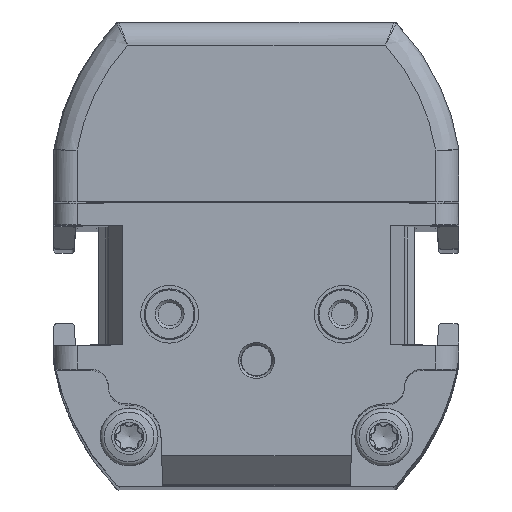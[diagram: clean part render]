
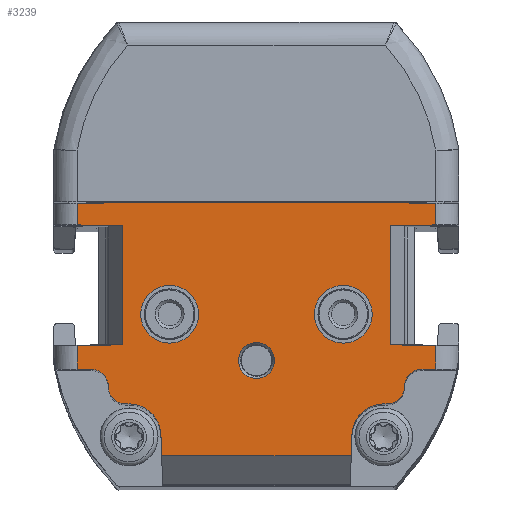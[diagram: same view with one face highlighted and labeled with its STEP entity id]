
A CAD part, top view. The second image highlights one B-rep face of the part: STEP entity #3239.
In plain terms, the highlighted planar face has unit normal (0, 0, 1).
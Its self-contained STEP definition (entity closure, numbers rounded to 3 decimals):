
#1178=FACE_BOUND('',#5343,.T.);
#1179=FACE_BOUND('',#5344,.T.);
#1180=FACE_BOUND('',#5345,.T.);
#1181=FACE_BOUND('',#5346,.T.);
#1900=CIRCLE('',#17502,2.5);
#1901=CIRCLE('',#17504,2.5);
#1902=CIRCLE('',#17506,1.55);
#1905=CIRCLE('',#17576,1.5);
#1906=CIRCLE('',#17577,1.5);
#1907=CIRCLE('',#17578,1.5);
#1908=CIRCLE('',#17579,1.5);
#1909=CIRCLE('',#17580,2.75);
#1910=CIRCLE('',#17581,2.75);
#3239=ADVANCED_FACE('',(#1178,#1179,#1180,#1181),#3754,.T.);
#3754=PLANE('',#17582);
#5343=EDGE_LOOP('',(#9281));
#5344=EDGE_LOOP('',(#9282));
#5345=EDGE_LOOP('',(#9283));
#5346=EDGE_LOOP('',(#9284,#9285,#9286,#9287,#9288,#9289,#9290,#9291,#9292,
#9293,#9294,#9295,#9296,#9297,#9298,#9299,#9300,#9301,#9302,#9303,#9304,
#9305,#9306,#9307,#9308,#9309));
#9281=ORIENTED_EDGE('',*,*,#13579,.T.);
#9282=ORIENTED_EDGE('',*,*,#13578,.F.);
#9283=ORIENTED_EDGE('',*,*,#13577,.F.);
#9284=ORIENTED_EDGE('',*,*,#13699,.F.);
#9285=ORIENTED_EDGE('',*,*,#13700,.T.);
#9286=ORIENTED_EDGE('',*,*,#13701,.T.);
#9287=ORIENTED_EDGE('',*,*,#13702,.T.);
#9288=ORIENTED_EDGE('',*,*,#13630,.T.);
#9289=ORIENTED_EDGE('',*,*,#13576,.T.);
#9290=ORIENTED_EDGE('',*,*,#13573,.T.);
#9291=ORIENTED_EDGE('',*,*,#13572,.T.);
#9292=ORIENTED_EDGE('',*,*,#13698,.T.);
#9293=ORIENTED_EDGE('',*,*,#13703,.F.);
#9294=ORIENTED_EDGE('',*,*,#13704,.F.);
#9295=ORIENTED_EDGE('',*,*,#13705,.F.);
#9296=ORIENTED_EDGE('',*,*,#13692,.T.);
#9297=ORIENTED_EDGE('',*,*,#13568,.F.);
#9298=ORIENTED_EDGE('',*,*,#13564,.T.);
#9299=ORIENTED_EDGE('',*,*,#13563,.F.);
#9300=ORIENTED_EDGE('',*,*,#13603,.T.);
#9301=ORIENTED_EDGE('',*,*,#13706,.F.);
#9302=ORIENTED_EDGE('',*,*,#13707,.T.);
#9303=ORIENTED_EDGE('',*,*,#13708,.T.);
#9304=ORIENTED_EDGE('',*,*,#13709,.F.);
#9305=ORIENTED_EDGE('',*,*,#13710,.F.);
#9306=ORIENTED_EDGE('',*,*,#13711,.F.);
#9307=ORIENTED_EDGE('',*,*,#13611,.T.);
#9308=ORIENTED_EDGE('',*,*,#13712,.F.);
#9309=ORIENTED_EDGE('',*,*,#13713,.F.);
#11499=VERTEX_POINT('',#29891);
#11500=VERTEX_POINT('',#29893);
#11501=VERTEX_POINT('',#29897);
#11502=VERTEX_POINT('',#29901);
#11504=VERTEX_POINT('',#29907);
#11506=VERTEX_POINT('',#29911);
#11507=VERTEX_POINT('',#29915);
#11508=VERTEX_POINT('',#29919);
#11509=VERTEX_POINT('',#29923);
#11510=VERTEX_POINT('',#29926);
#11511=VERTEX_POINT('',#29929);
#11528=VERTEX_POINT('',#30023);
#11533=VERTEX_POINT('',#30037);
#11534=VERTEX_POINT('',#30039);
#11547=VERTEX_POINT('',#30079);
#11581=VERTEX_POINT('',#30332);
#11585=VERTEX_POINT('',#30342);
#11586=VERTEX_POINT('',#30346);
#11587=VERTEX_POINT('',#30347);
#11588=VERTEX_POINT('',#30349);
#11589=VERTEX_POINT('',#30351);
#11590=VERTEX_POINT('',#30354);
#11591=VERTEX_POINT('',#30356);
#11592=VERTEX_POINT('',#30359);
#11593=VERTEX_POINT('',#30361);
#11594=VERTEX_POINT('',#30363);
#11595=VERTEX_POINT('',#30365);
#11596=VERTEX_POINT('',#30367);
#11597=VERTEX_POINT('',#30370);
#13563=EDGE_CURVE('',#11500,#11499,#15088,.T.);
#13564=EDGE_CURVE('',#11501,#11499,#15089,.T.);
#13568=EDGE_CURVE('',#11501,#11502,#15092,.T.);
#13572=EDGE_CURVE('',#11504,#11506,#15095,.T.);
#13573=EDGE_CURVE('',#11507,#11504,#15096,.T.);
#13576=EDGE_CURVE('',#11508,#11507,#15098,.T.);
#13577=EDGE_CURVE('',#11509,#11509,#1900,.T.);
#13578=EDGE_CURVE('',#11510,#11510,#1901,.T.);
#13579=EDGE_CURVE('',#11511,#11511,#1902,.T.);
#13603=EDGE_CURVE('',#11500,#11528,#15113,.T.);
#13611=EDGE_CURVE('',#11533,#11534,#15119,.T.);
#13630=EDGE_CURVE('',#11547,#11508,#15132,.T.);
#13692=EDGE_CURVE('',#11581,#11502,#15175,.T.);
#13698=EDGE_CURVE('',#11506,#11585,#15177,.T.);
#13699=EDGE_CURVE('',#11586,#11587,#15178,.T.);
#13700=EDGE_CURVE('',#11586,#11588,#1905,.T.);
#13701=EDGE_CURVE('',#11588,#11589,#1906,.T.);
#13702=EDGE_CURVE('',#11589,#11547,#15179,.T.);
#13703=EDGE_CURVE('',#11590,#11585,#15180,.T.);
#13704=EDGE_CURVE('',#11591,#11590,#15181,.T.);
#13705=EDGE_CURVE('',#11581,#11591,#15182,.T.);
#13706=EDGE_CURVE('',#11592,#11528,#15183,.T.);
#13707=EDGE_CURVE('',#11592,#11593,#1907,.T.);
#13708=EDGE_CURVE('',#11593,#11594,#1908,.T.);
#13709=EDGE_CURVE('',#11595,#11594,#15184,.T.);
#13710=EDGE_CURVE('',#11596,#11595,#1909,.T.);
#13711=EDGE_CURVE('',#11533,#11596,#15185,.T.);
#13712=EDGE_CURVE('',#11597,#11534,#15186,.T.);
#13713=EDGE_CURVE('',#11587,#11597,#1910,.T.);
#15088=LINE('',#29894,#16251);
#15089=LINE('',#29896,#16252);
#15092=LINE('',#29904,#16255);
#15095=LINE('',#29912,#16258);
#15096=LINE('',#29914,#16259);
#15098=LINE('',#29920,#16261);
#15113=LINE('',#30024,#16276);
#15119=LINE('',#30040,#16282);
#15132=LINE('',#30078,#16295);
#15175=LINE('',#30331,#16338);
#15177=LINE('',#30343,#16340);
#15178=LINE('',#30345,#16341);
#15179=LINE('',#30352,#16342);
#15180=LINE('',#30353,#16343);
#15181=LINE('',#30355,#16344);
#15182=LINE('',#30357,#16345);
#15183=LINE('',#30358,#16346);
#15184=LINE('',#30364,#16347);
#15185=LINE('',#30368,#16348);
#15186=LINE('',#30369,#16349);
#16251=VECTOR('',#20699,1.);
#16252=VECTOR('',#20702,1.);
#16255=VECTOR('',#20709,1.);
#16258=VECTOR('',#20716,1.);
#16259=VECTOR('',#20719,1.);
#16261=VECTOR('',#20725,1.);
#16276=VECTOR('',#20776,1.);
#16282=VECTOR('',#20790,1.);
#16295=VECTOR('',#20829,1.);
#16338=VECTOR('',#20940,1.);
#16340=VECTOR('',#20952,1.);
#16341=VECTOR('',#20955,1.);
#16342=VECTOR('',#20960,1.);
#16343=VECTOR('',#20961,1.);
#16344=VECTOR('',#20962,1.);
#16345=VECTOR('',#20963,1.);
#16346=VECTOR('',#20964,1.);
#16347=VECTOR('',#20969,1.);
#16348=VECTOR('',#20972,1.);
#16349=VECTOR('',#20973,1.);
#17502=AXIS2_PLACEMENT_3D('',#29922,#20728,#20729);
#17504=AXIS2_PLACEMENT_3D('',#29925,#20732,#20733);
#17506=AXIS2_PLACEMENT_3D('',#29928,#20736,#20737);
#17576=AXIS2_PLACEMENT_3D('',#30348,#20956,#20957);
#17577=AXIS2_PLACEMENT_3D('',#30350,#20958,#20959);
#17578=AXIS2_PLACEMENT_3D('',#30360,#20965,#20966);
#17579=AXIS2_PLACEMENT_3D('',#30362,#20967,#20968);
#17580=AXIS2_PLACEMENT_3D('',#30366,#20970,#20971);
#17581=AXIS2_PLACEMENT_3D('',#30371,#20974,#20975);
#17582=AXIS2_PLACEMENT_3D('',#30372,#20976,#20977);
#20699=DIRECTION('',(1.,0.017,0.));
#20702=DIRECTION('',(0.,-1.,0.));
#20709=DIRECTION('',(-1.,0.017,0.));
#20716=DIRECTION('',(1.,0.017,0.));
#20719=DIRECTION('',(0.,1.,0.));
#20725=DIRECTION('',(-1.,0.017,0.));
#20728=DIRECTION('',(0.,0.,1.));
#20729=DIRECTION('',(1.,0.,0.));
#20732=DIRECTION('',(0.,0.,1.));
#20733=DIRECTION('',(1.,0.,0.));
#20736=DIRECTION('',(0.,0.,-1.));
#20737=DIRECTION('',(1.,0.,0.));
#20776=DIRECTION('',(0.,-1.,0.));
#20790=DIRECTION('',(1.,0.,0.));
#20829=DIRECTION('',(0.,1.,0.));
#20940=DIRECTION('',(0.,-1.,0.));
#20952=DIRECTION('',(0.,1.,0.));
#20955=DIRECTION('',(-1.,0.,0.));
#20956=DIRECTION('',(0.,0.,1.));
#20957=DIRECTION('',(1.,0.,0.));
#20958=DIRECTION('',(0.,0.,-1.));
#20959=DIRECTION('',(1.,0.,0.));
#20960=DIRECTION('',(1.,0.,0.));
#20961=DIRECTION('',(1.,-0.017,0.));
#20962=DIRECTION('',(1.,0.,0.));
#20963=DIRECTION('',(1.,0.017,0.));
#20964=DIRECTION('',(-1.,0.,0.));
#20965=DIRECTION('',(0.,0.,-1.));
#20966=DIRECTION('',(1.,0.,0.));
#20967=DIRECTION('',(0.,0.,1.));
#20968=DIRECTION('',(1.,0.,0.));
#20969=DIRECTION('',(-1.,0.,0.));
#20970=DIRECTION('',(0.,0.,1.));
#20971=DIRECTION('',(1.,0.,0.));
#20972=DIRECTION('',(-0.035,0.999,0.));
#20973=DIRECTION('',(-0.035,-0.999,0.));
#20974=DIRECTION('',(0.,0.,1.));
#20975=DIRECTION('',(1.,0.,0.));
#20976=DIRECTION('',(0.,0.,1.));
#20977=DIRECTION('',(1.,0.,0.));
#29891=CARTESIAN_POINT('',(-11.55,12.107,249.));
#29893=CARTESIAN_POINT('',(-15.5,12.038,249.));
#29894=CARTESIAN_POINT('',(-17.709,11.999,249.));
#29896=CARTESIAN_POINT('',(-11.55,0.,249.));
#29897=CARTESIAN_POINT('',(-11.55,22.393,249.));
#29901=CARTESIAN_POINT('',(-15.5,22.462,249.));
#29904=CARTESIAN_POINT('',(-17.107,22.49,249.));
#29907=CARTESIAN_POINT('',(11.55,22.393,249.));
#29911=CARTESIAN_POINT('',(15.5,22.462,249.));
#29912=CARTESIAN_POINT('',(-17.882,21.88,249.));
#29914=CARTESIAN_POINT('',(11.55,0.,249.));
#29915=CARTESIAN_POINT('',(11.55,12.107,249.));
#29919=CARTESIAN_POINT('',(15.5,12.038,249.));
#29920=CARTESIAN_POINT('',(-17.28,12.61,249.));
#29922=CARTESIAN_POINT('',(-7.5,14.75,249.));
#29923=CARTESIAN_POINT('',(-5.,14.75,249.));
#29925=CARTESIAN_POINT('',(7.5,14.75,249.));
#29926=CARTESIAN_POINT('',(10.,14.75,249.));
#29928=CARTESIAN_POINT('',(0.,10.75,249.));
#29929=CARTESIAN_POINT('',(1.55,10.75,249.));
#30023=CARTESIAN_POINT('',(-15.5,10.,249.));
#30024=CARTESIAN_POINT('',(-15.5,0.,249.));
#30037=CARTESIAN_POINT('',(-8.189,2.5,249.));
#30039=CARTESIAN_POINT('',(8.189,2.5,249.));
#30040=CARTESIAN_POINT('',(-17.5,2.5,249.));
#30078=CARTESIAN_POINT('',(15.5,0.,249.));
#30079=CARTESIAN_POINT('',(15.5,10.,249.));
#30331=CARTESIAN_POINT('',(-15.5,0.,249.));
#30332=CARTESIAN_POINT('',(-15.5,24.317,249.));
#30342=CARTESIAN_POINT('',(15.5,24.317,249.));
#30343=CARTESIAN_POINT('',(15.5,0.,249.));
#30345=CARTESIAN_POINT('',(23.25,7.,249.));
#30346=CARTESIAN_POINT('',(11.3,7.,249.));
#30347=CARTESIAN_POINT('',(11.002,7.,249.));
#30348=CARTESIAN_POINT('',(11.3,8.5,249.));
#30349=CARTESIAN_POINT('',(12.8,8.5,249.));
#30350=CARTESIAN_POINT('',(14.3,8.5,249.));
#30351=CARTESIAN_POINT('',(14.3,10.,249.));
#30352=CARTESIAN_POINT('',(-17.5,10.,249.));
#30353=CARTESIAN_POINT('',(-17.066,24.886,249.));
#30354=CARTESIAN_POINT('',(13.025,24.36,249.));
#30355=CARTESIAN_POINT('',(-17.5,24.36,249.));
#30356=CARTESIAN_POINT('',(-13.025,24.36,249.));
#30357=CARTESIAN_POINT('',(-17.924,24.275,249.));
#30358=CARTESIAN_POINT('',(-17.5,10.,249.));
#30359=CARTESIAN_POINT('',(-14.3,10.,249.));
#30360=CARTESIAN_POINT('',(-14.3,8.5,249.));
#30361=CARTESIAN_POINT('',(-12.8,8.5,249.));
#30362=CARTESIAN_POINT('',(-11.3,8.5,249.));
#30363=CARTESIAN_POINT('',(-11.3,7.,249.));
#30364=CARTESIAN_POINT('',(-11.,7.,249.));
#30365=CARTESIAN_POINT('',(-11.002,7.,249.));
#30366=CARTESIAN_POINT('',(-11.002,4.25,249.));
#30367=CARTESIAN_POINT('',(-8.253,4.346,249.));
#30368=CARTESIAN_POINT('',(-8.25,4.25,249.));
#30369=CARTESIAN_POINT('',(8.25,4.25,249.));
#30370=CARTESIAN_POINT('',(8.253,4.346,249.));
#30371=CARTESIAN_POINT('',(11.002,4.25,249.));
#30372=CARTESIAN_POINT('',(-17.5,0.,249.));
